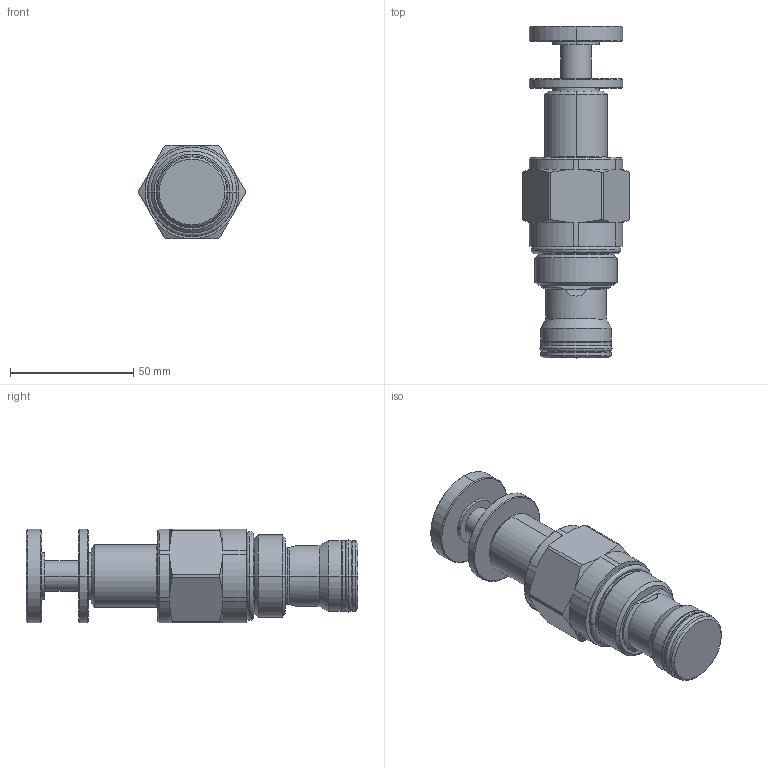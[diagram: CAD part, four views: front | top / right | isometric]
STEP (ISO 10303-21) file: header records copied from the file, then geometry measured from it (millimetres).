
FILE_DESCRIPTION((''),'2;1');
FILE_NAME('PRT0022','2009-03-25T',('JCS'),(''),'PRO/ENGINEER BY PARAMETRIC TECHNOLOGY CORPORATION, 2008510','PRO/ENGINEER BY PARAMETRIC TECHNOLOGY CORPORATION, 2008510','');
FILE_SCHEMA(('CONFIG_CONTROL_DESIGN'));
Length unit declared in the file: inch
Products named in the file (1): PRT0022
Bounding box: 43.23 x 134.82 x 38.1 mm (x, y, z)
Volume: 100787.2 mm3; surface area: 21916 mm2
Topology: 3 solids, 3 shells, 181 faces, 430 edges, 263 vertices
Faces by surface type: cylinder 66, cone 54, plane 35, revolution 16, torus 10
Entity records: 5686 total; most frequent: CARTESIAN_POINT 1452, DIRECTION 902, ORIENTED_EDGE 856, EDGE_CURVE 428, AXIS2_PLACEMENT_3D 365, VERTEX_POINT 263, CIRCLE 200, EDGE_LOOP 195
